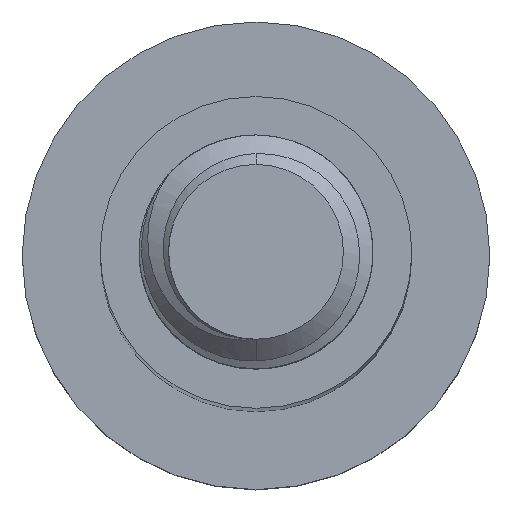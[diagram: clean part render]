
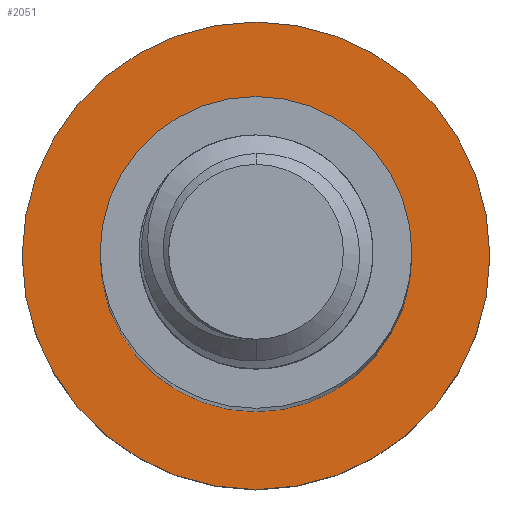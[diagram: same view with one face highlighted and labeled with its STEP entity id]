
A CAD part, top view. The second image highlights one B-rep face of the part: STEP entity #2051.
In plain terms, the highlighted planar face has unit normal (0, 0, 1).
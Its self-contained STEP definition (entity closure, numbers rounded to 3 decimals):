
#207 = CARTESIAN_POINT ( 'NONE',  ( 0., 0., -100. ) ) ;
#297 = CARTESIAN_POINT ( 'NONE',  ( -8., 0., -100. ) ) ;
#962 = EDGE_CURVE ( 'NONE', #2840, #3860, #5164, .T. ) ;
#971 = CARTESIAN_POINT ( 'NONE',  ( 12., 0., -100. ) ) ;
#975 = DIRECTION ( 'NONE',  ( -1., 0., 0. ) ) ;
#1158 = CARTESIAN_POINT ( 'NONE',  ( 8., 0., -100. ) ) ;
#1335 = DIRECTION ( 'NONE',  ( 0., 0., -1. ) ) ;
#1357 = DIRECTION ( 'NONE',  ( -1., 0., 0. ) ) ;
#1446 = ORIENTED_EDGE ( 'NONE', *, *, #2170, .F. ) ;
#1510 = DIRECTION ( 'NONE',  ( 0., 0., -1. ) ) ;
#1588 = ORIENTED_EDGE ( 'NONE', *, *, #2010, .T. ) ;
#1698 = ORIENTED_EDGE ( 'NONE', *, *, #962, .F. ) ;
#1731 = AXIS2_PLACEMENT_3D ( 'NONE', #2925, #4965, #975 ) ;
#2010 = EDGE_CURVE ( 'NONE', #2625, #4735, #4241, .T. ) ;
#2051 = ADVANCED_FACE ( 'NONE', ( #2165, #3336 ), #4949, .F. ) ;
#2165 = FACE_BOUND ( 'NONE', #4021, .T. ) ;
#2170 = EDGE_CURVE ( 'NONE', #3860, #2840, #4515, .T. ) ;
#2565 = AXIS2_PLACEMENT_3D ( 'NONE', #2657, #1510, #2737 ) ;
#2625 = VERTEX_POINT ( 'NONE', #297 ) ;
#2657 = CARTESIAN_POINT ( 'NONE',  ( 0., 0., -100. ) ) ;
#2737 = DIRECTION ( 'NONE',  ( -1., 0., 0. ) ) ;
#2840 = VERTEX_POINT ( 'NONE', #4808 ) ;
#2904 = DIRECTION ( 'NONE',  ( -1., 0., 0. ) ) ;
#2925 = CARTESIAN_POINT ( 'NONE',  ( 0., 0., -100. ) ) ;
#2977 = DIRECTION ( 'NONE',  ( 0., 0., -1. ) ) ;
#3000 = CARTESIAN_POINT ( 'NONE',  ( 0., 0., -100. ) ) ;
#3005 = DIRECTION ( 'NONE',  ( 0., 0., -1. ) ) ;
#3159 = AXIS2_PLACEMENT_3D ( 'NONE', #207, #1335, #2904 ) ;
#3336 = FACE_OUTER_BOUND ( 'NONE', #4127, .T. ) ;
#3532 = ORIENTED_EDGE ( 'NONE', *, *, #3725, .T. ) ;
#3725 = EDGE_CURVE ( 'NONE', #4735, #2625, #3908, .T. ) ;
#3836 = DIRECTION ( 'NONE',  ( -1., 0., 0. ) ) ;
#3860 = VERTEX_POINT ( 'NONE', #971 ) ;
#3908 = CIRCLE ( 'NONE', #4091, 8. ) ;
#3994 = AXIS2_PLACEMENT_3D ( 'NONE', #4160, #3005, #1357 ) ;
#4021 = EDGE_LOOP ( 'NONE', ( #1588, #3532 ) ) ;
#4091 = AXIS2_PLACEMENT_3D ( 'NONE', #3000, #2977, #3836 ) ;
#4127 = EDGE_LOOP ( 'NONE', ( #1446, #1698 ) ) ;
#4160 = CARTESIAN_POINT ( 'NONE',  ( 0., 0., -100. ) ) ;
#4241 = CIRCLE ( 'NONE', #3159, 8. ) ;
#4515 = CIRCLE ( 'NONE', #1731, 12. ) ;
#4735 = VERTEX_POINT ( 'NONE', #1158 ) ;
#4808 = CARTESIAN_POINT ( 'NONE',  ( -12., 0., -100. ) ) ;
#4949 = PLANE ( 'NONE',  #3994 ) ;
#4965 = DIRECTION ( 'NONE',  ( 0., 0., -1. ) ) ;
#5164 = CIRCLE ( 'NONE', #2565, 12. ) ;
